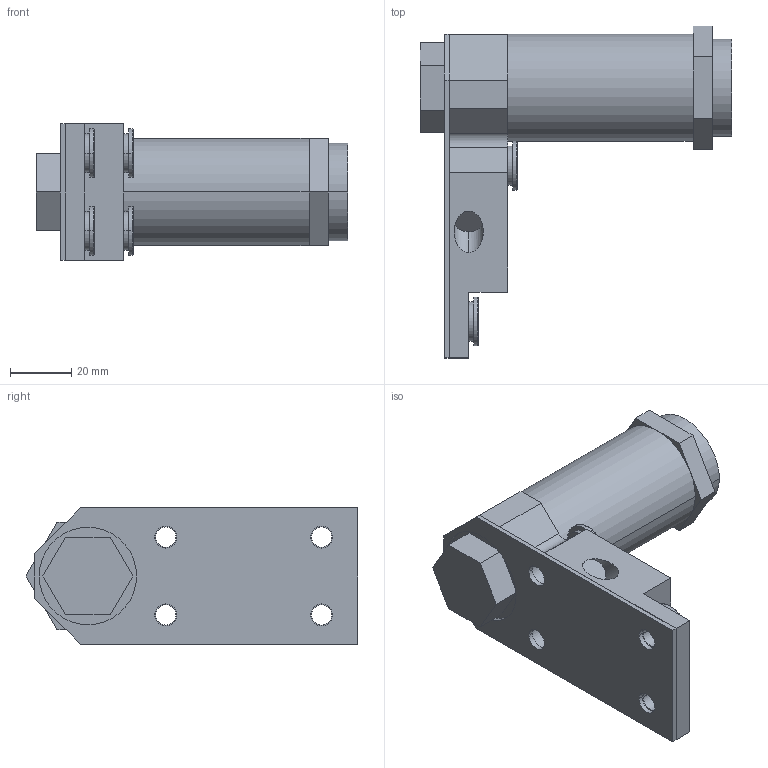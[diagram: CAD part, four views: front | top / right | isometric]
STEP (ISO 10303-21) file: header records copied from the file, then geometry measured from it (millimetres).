
FILE_DESCRIPTION((''),'2;1');
FILE_NAME('XMR3_ASM','2017-08-24T',('jennifer.elliott'),('CenterLine (Windsor) Ltd - Automation Components Division'),'PRO/ENGINEER BY PARAMETRIC TECHNOLOGY CORPORATION, 2015030','PRO/ENGINEER BY PARAMETRIC TECHNOLOGY CORPORATION, 2015030','');
FILE_SCHEMA(('AUTOMOTIVE_DESIGN { 1 0 10303 214 1 1 1 1 }'));
Length unit declared in the file: inch
Products named in the file (28): PRT1717; PRT1718; PRT1719; PRT1720; PRT1721; PRT1722; PRT1723; PRT1724; PRT1725; PRT1726; PRT1727; PRT1728; PRT1729; PRT1730; PRT1731; PRT1732; PRT1733; PRT1734; PRT1735; PRT1736; PRT1737; PRT1738; PRT1739; PRT1740; PRT1741; PRT1742; PRT1743; XMR3_ASM
Assembly tree (27 placements, depth 2):
  XMR3_ASM
    PRT1717
    PRT1718
    PRT1719
    PRT1720
    PRT1721
    PRT1722
    PRT1723
    PRT1724
    PRT1725
    PRT1726
    PRT1727
    PRT1728
    PRT1729
    PRT1730
    PRT1731
    PRT1732
    PRT1733
    PRT1734
    PRT1735
    PRT1736
    PRT1737
    PRT1738
    PRT1739
    PRT1740
    PRT1741
    PRT1742
    PRT1743
Bounding box: 101.73 x 108.24 x 44.45 mm (x, y, z)
Volume: 145171.3 mm3; surface area: 43170.5 mm2
Topology: 14 solids, 14 shells, 157 faces, 348 edges, 225 vertices
Faces by surface type: cylinder 71, plane 66, torus 16, cone 4
Entity records: 5788 total; most frequent: DIRECTION 939, CARTESIAN_POINT 915, ORIENTED_EDGE 696, AXIS2_PLACEMENT_3D 385, EDGE_CURVE 348, VERTEX_POINT 225, EDGE_LOOP 199, CIRCLE 173
